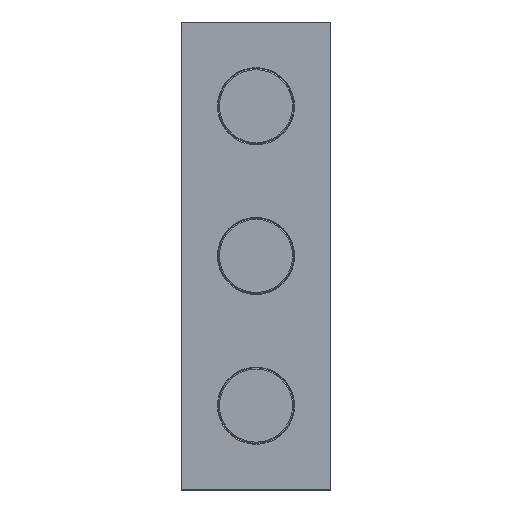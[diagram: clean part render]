
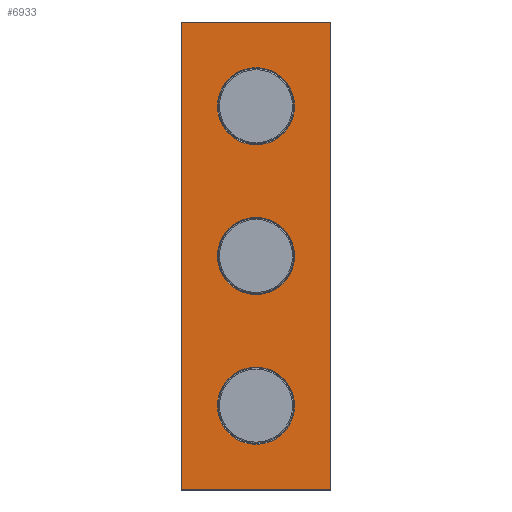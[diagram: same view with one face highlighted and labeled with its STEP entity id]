
A CAD part, top view. The second image highlights one B-rep face of the part: STEP entity #6933.
In plain terms, the highlighted planar face has unit normal (0, 0, 1).
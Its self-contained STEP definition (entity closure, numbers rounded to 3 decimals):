
#6933=ADVANCED_FACE('',(#9543,#9544,#9545,#9546),#8904,.T.);
#8904=PLANE('',#31686);
#9483=LINE('',#38814,#9513);
#9484=LINE('',#38817,#9514);
#9485=LINE('',#38819,#9515);
#9486=LINE('',#38821,#9516);
#9513=VECTOR('',#34058,1.);
#9514=VECTOR('',#34059,1.);
#9515=VECTOR('',#34060,1.);
#9516=VECTOR('',#34061,1.);
#9543=FACE_BOUND('',#9992,.T.);
#9544=FACE_BOUND('',#9993,.T.);
#9545=FACE_BOUND('',#9994,.T.);
#9546=FACE_BOUND('',#9995,.T.);
#9992=EDGE_LOOP('',(#12320));
#9993=EDGE_LOOP('',(#12321));
#9994=EDGE_LOOP('',(#12322));
#9995=EDGE_LOOP('',(#12323,#12324,#12325,#12326));
#12320=ORIENTED_EDGE('',*,*,#25387,.F.);
#12321=ORIENTED_EDGE('',*,*,#25388,.F.);
#12322=ORIENTED_EDGE('',*,*,#25389,.F.);
#12323=ORIENTED_EDGE('',*,*,#25390,.F.);
#12324=ORIENTED_EDGE('',*,*,#25391,.F.);
#12325=ORIENTED_EDGE('',*,*,#25392,.F.);
#12326=ORIENTED_EDGE('',*,*,#25393,.F.);
#22100=VERTEX_POINT('',#38809);
#22101=VERTEX_POINT('',#38811);
#22102=VERTEX_POINT('',#38813);
#22103=VERTEX_POINT('',#38815);
#22104=VERTEX_POINT('',#38816);
#22105=VERTEX_POINT('',#38818);
#22106=VERTEX_POINT('',#38820);
#25387=EDGE_CURVE('',#22100,#22100,#30329,.T.);
#25388=EDGE_CURVE('',#22101,#22101,#30330,.T.);
#25389=EDGE_CURVE('',#22102,#22102,#30331,.T.);
#25390=EDGE_CURVE('',#22103,#22104,#9483,.T.);
#25391=EDGE_CURVE('',#22105,#22103,#9484,.T.);
#25392=EDGE_CURVE('',#22106,#22105,#9485,.T.);
#25393=EDGE_CURVE('',#22104,#22106,#9486,.T.);
#30329=CIRCLE('',#31683,20.6);
#30330=CIRCLE('',#31684,20.6);
#30331=CIRCLE('',#31685,20.6);
#31683=AXIS2_PLACEMENT_3D('',#38808,#34052,#34053);
#31684=AXIS2_PLACEMENT_3D('',#38810,#34054,#34055);
#31685=AXIS2_PLACEMENT_3D('',#38812,#34056,#34057);
#31686=AXIS2_PLACEMENT_3D('',#38822,#34062,#34063);
#34052=DIRECTION('',(0.,0.,1.));
#34053=DIRECTION('',(1.,0.,0.));
#34054=DIRECTION('',(0.,0.,1.));
#34055=DIRECTION('',(1.,0.,0.));
#34056=DIRECTION('',(0.,0.,1.));
#34057=DIRECTION('',(1.,0.,0.));
#34058=DIRECTION('',(-1.,0.,0.));
#34059=DIRECTION('',(0.,-1.,0.));
#34060=DIRECTION('',(1.,0.,0.));
#34061=DIRECTION('',(0.,1.,0.));
#34062=DIRECTION('',(0.,0.,1.));
#34063=DIRECTION('',(1.,0.,0.));
#38808=CARTESIAN_POINT('',(0.,205.,3.));
#38809=CARTESIAN_POINT('',(20.6,205.,3.));
#38810=CARTESIAN_POINT('',(0.,125.,3.));
#38811=CARTESIAN_POINT('',(20.6,125.,3.));
#38812=CARTESIAN_POINT('',(0.,45.,3.));
#38813=CARTESIAN_POINT('',(20.6,45.,3.));
#38814=CARTESIAN_POINT('',(40.,0.,3.));
#38815=CARTESIAN_POINT('',(40.,0.,3.));
#38816=CARTESIAN_POINT('',(-40.,0.,3.));
#38817=CARTESIAN_POINT('',(40.,125.,3.));
#38818=CARTESIAN_POINT('',(40.,250.,3.));
#38819=CARTESIAN_POINT('',(40.,250.,3.));
#38820=CARTESIAN_POINT('',(-40.,250.,3.));
#38821=CARTESIAN_POINT('',(-40.,125.,3.));
#38822=CARTESIAN_POINT('',(40.,125.,3.));
